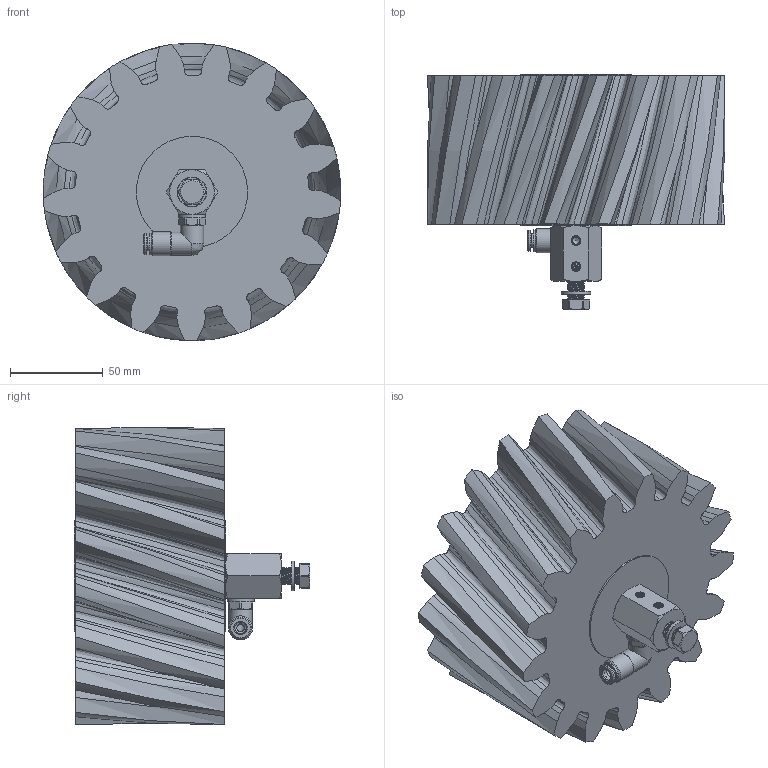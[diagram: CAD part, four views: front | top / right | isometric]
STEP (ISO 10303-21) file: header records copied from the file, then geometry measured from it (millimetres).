
FILE_DESCRIPTION (( 'STEP AP214' ), '1' );
FILE_NAME ('012_13_08_80_17BRZ.STEP', '2026-04-14T08:16:59', ( '' ), ( '' ), 'SwSTEP 2.0', 'SolidWorks 2022', '' );
FILE_SCHEMA (( 'AUTOMOTIVE_DESIGN' ));
Length unit declared in the file: millimetre
Products named in the file (13): 012_06_Senkschraube; H202242_HDS022_6_M10X1_08.05.17(1); OR 7.2X1.9_1; Scheibe_hinten_winklige Achse_groß; Modul_8_S_R; 012_13_08_80_17BRZ; RIVOLUZIONE_0_2; DR6-C_HDX_25.07.16_1; 12012_06_01_Scheibe-CRS-VA_60.SLDASM; Schraube_M8_20; U_Scheibe_8,4; RH202242; 012_13b_02_winklige_Achse_M10_1
Assembly tree (12 placements, depth 3):
  012_13_08_80_17BRZ
    012_13b_02_winklige_Achse_M10_1
    Schraube_M8_20
    U_Scheibe_8,4
    H202242_HDS022_6_M10X1_08.05.17(1)
      OR 7.2X1.9_1
      RH202242
      DR6-C_HDX_25.07.16_1
      RIVOLUZIONE_0_2
    12012_06_01_Scheibe-CRS-VA_60.SLDASM
    Scheibe_hinten_winklige Achse_groß
    012_06_Senkschraube
    Modul_8_S_R
Bounding box: 160.15 x 126.9 x 160.24 mm (x, y, z)
Volume: 1325392.6 mm3; surface area: 126524.4 mm2
Topology: 11 solids, 11 shells, 743 faces, 2031 edges, 1346 vertices
Faces by surface type: bspline 337, plane 276, cylinder 71, cone 56, torus 3
Full cylindrical faces by diameter (mm): 4 x3, 6 x1, 6.2 x1, 6.3 x1, 6.5 x1, 7.2 x1, 8.4 x1, 8.5 x1, 9 x10, 9.9 x1, 10 x2, 10.1 x2, 10.3 x1, 11.5 x1, 11.7 x1, 12.5 x2, 13 x1, 14.5 x1, 16 x1, 60 x2
Entity records: 85218 total; most frequent: CARTESIAN_POINT 68764, ORIENTED_EDGE 3764, DIRECTION 1906, EDGE_CURVE 1882, VERTEX_POINT 1280, B_SPLINE_CURVE_WITH_KNOTS 936, EDGE_LOOP 862, FACE_OUTER_BOUND 770
